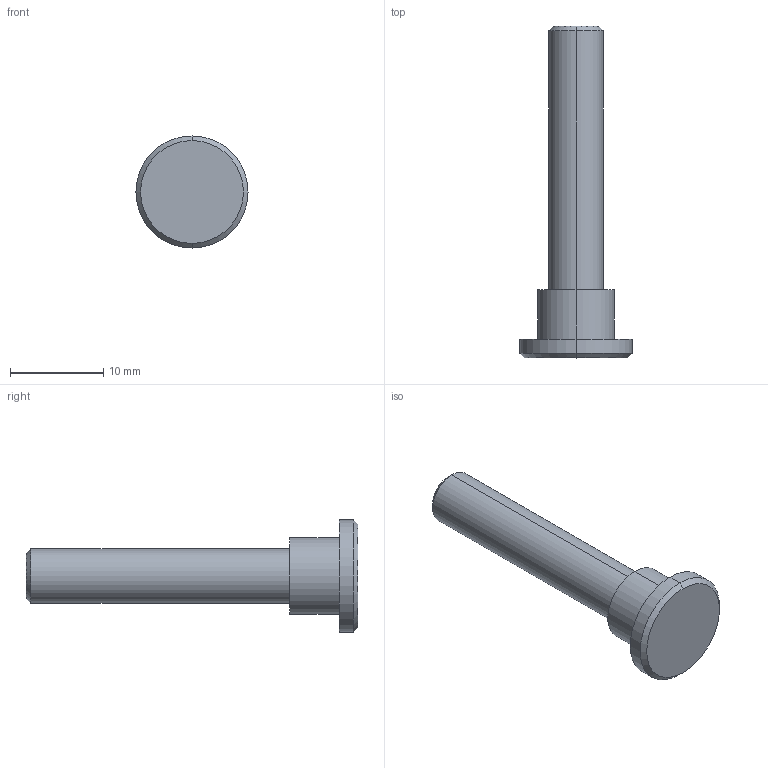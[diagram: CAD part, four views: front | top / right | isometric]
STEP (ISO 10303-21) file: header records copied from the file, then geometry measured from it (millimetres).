
FILE_DESCRIPTION (( 'STEP AP203' ), '1' );
FILE_NAME ('013.100.050.STEP', '2022-04-12T09:31:40', ( '' ), ( '' ), 'SwSTEP 2.0', 'SolidWorks 2021', '' );
FILE_SCHEMA (( 'CONFIG_CONTROL_DESIGN' ));
Length unit declared in the file: millimetre
Products named in the file (1): 013.100.050
Bounding box: 12 x 35.5 x 12 mm (x, y, z)
Volume: 1244.4 mm3; surface area: 934.9 mm2
Topology: 1 solids, 1 shells, 14 faces, 26 edges, 16 vertices
Faces by surface type: cylinder 6, cone 4, plane 4
Entity records: 431 total; most frequent: DIRECTION 72, CARTESIAN_POINT 57, ORIENTED_EDGE 52, AXIS2_PLACEMENT_3D 31, EDGE_CURVE 26, CIRCLE 16, EDGE_LOOP 16, VERTEX_POINT 16
